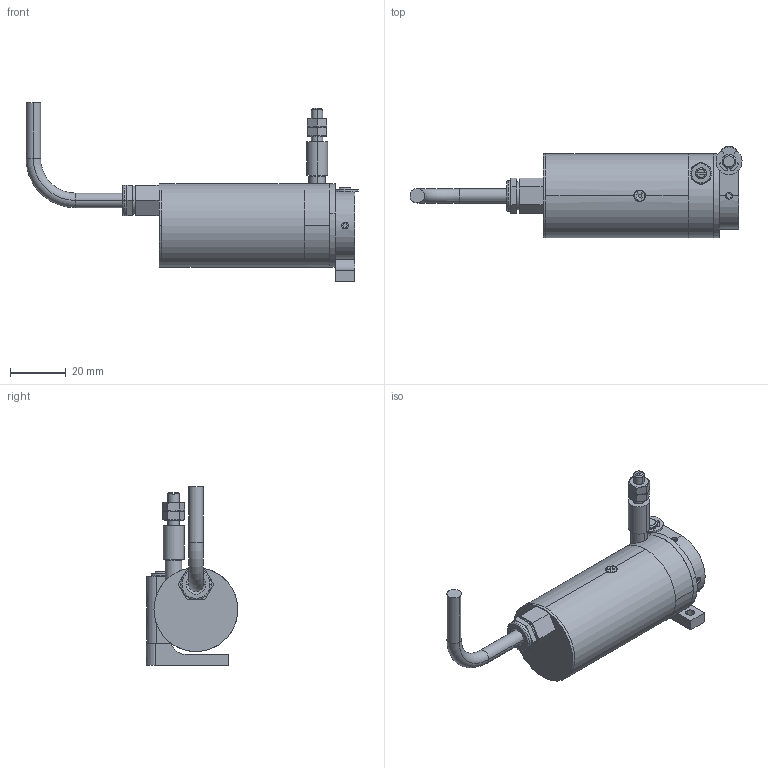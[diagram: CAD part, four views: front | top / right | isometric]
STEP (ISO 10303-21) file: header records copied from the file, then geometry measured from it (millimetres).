
FILE_DESCRIPTION((''),'2;1');
FILE_NAME('SESTAVA','2013-06-12T',(''),(''),'PRO/ENGINEER BY PARAMETRIC TECHNOLOGY CORPORATION, 2003250','PRO/ENGINEER BY PARAMETRIC TECHNOLOGY CORPORATION, 2003250','');
FILE_SCHEMA(('CONFIG_CONTROL_DESIGN'));
Length unit declared in the file: millimetre
Products named in the file (17): SPODNI_DRZAK; HRIDEL_DRZAKU; POUZDRO_PRUZINY; PREDNI_KRYT; PR______RYT; HORNI_DRZAK; PRUCHODKA_KABELU; MATICE_M4; POJ_KROUZ; KABEL; SROUB_LANKA_0_45; 2X10; M3X3; POUZDRO; ZADN__KRYT; M2X5; SESTAVA
Assembly tree (21 placements, depth 2):
  SESTAVA
    SPODNI_DRZAK
    HRIDEL_DRZAKU
    POUZDRO_PRUZINY
    PREDNI_KRYT
    PR______RYT
    HORNI_DRZAK
    PRUCHODKA_KABELU
    MATICE_M4  x2
    POJ_KROUZ
    KABEL
    SROUB_LANKA_0_45
    2X10
    M3X3  x5
    POUZDRO
    ZADN__KRYT
    M2X5
Bounding box: 118.75 x 32.8 x 64 mm (x, y, z)
Volume: 24698.5 mm3; surface area: 27643.4 mm2
Topology: 21 solids, 21 shells, 388 faces, 898 edges, 563 vertices
Faces by surface type: plane 162, cylinder 150, cone 48, torus 28
Entity records: 10024 total; most frequent: CARTESIAN_POINT 2320, DIRECTION 1640, ORIENTED_EDGE 1440, EDGE_CURVE 720, AXIS2_PLACEMENT_3D 648, VERTEX_POINT 459, EDGE_LOOP 371, VECTOR 344
